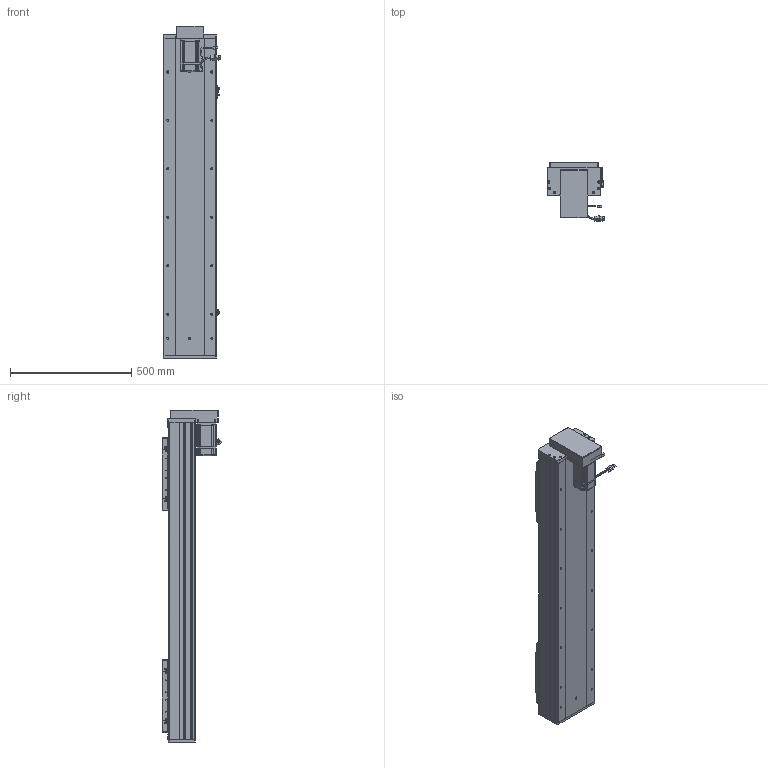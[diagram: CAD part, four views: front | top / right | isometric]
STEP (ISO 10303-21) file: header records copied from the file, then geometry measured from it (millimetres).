
FILE_DESCRIPTION (( 'STEP AP203' ), '1' );
FILE_NAME ('RY220F-L2525-300-BK.SLDASM_900.step', '2022-07-04T01:20:46', ( '' ), ( '' ), 'SwSTEP 2.0', 'SolidWorks 2016', '' );
FILE_SCHEMA (( 'CONFIG_CONTROL_DESIGN' ));
Length unit declared in the file: millimetre
Products named in the file (15): RY220F-祥凄詩湍-蛌殏-300_900; RY220F-蛌殏奻裔啣-300_900; 滅袉蝶18-24; RY220F-詩湍揤踡輸; RY220F-L2525-300-BK.SLDASM_900; 怢湛750W_ECMA-CX0807ES; RY220F綴裔啣; 侐源滅袉蝶; RY220F蛌殏菁釱-300_900; RY220狟殏萇儂假蚾啣; 覜茼ん672; RY220F-672覜茼んえ; RY220狟殏萇儂欶; RY220F臏賑釱25-32佪裝; RY220F-滅鳥奻裔
Assembly tree (24 placements, depth 2):
  RY220F-L2525-300-BK.SLDASM_900
    RY220F蛌殏菁釱-300_900
    RY220F-蛌殏奻裔啣-300_900  x2
    怢湛750W_ECMA-CX0807ES
    RY220F臏賑釱25-32佪裝  x2
    RY220F-滅鳥奻裔  x2
    滅袉蝶18-24  x3
    RY220F綴裔啣
    RY220F-祥凄詩湍-蛌殏-300_900
    RY220F-詩湍揤踡輸  x2
    覜茼ん672  x3
    RY220F-672覜茼んえ  x2
    侐源滅袉蝶  x2
    RY220狟殏萇儂假蚾啣
    RY220狟殏萇儂欶
Bounding box: 237.27 x 247.24 x 1371 mm (x, y, z)
Volume: 13761470.8 mm3; surface area: 3527519 mm2
Topology: 25 solids, 25 shells, 2739 faces, 7450 edges, 4617 vertices
Faces by surface type: cylinder 1214, plane 1062, cone 392, bspline 45, sphere 16, torus 10
Entity records: 67829 total; most frequent: CARTESIAN_POINT 18523, ORIENTED_EDGE 9986, DIRECTION 9645, EDGE_CURVE 4993, AXIS2_PLACEMENT_3D 3406, VERTEX_POINT 3233, LINE 2833, VECTOR 2833
